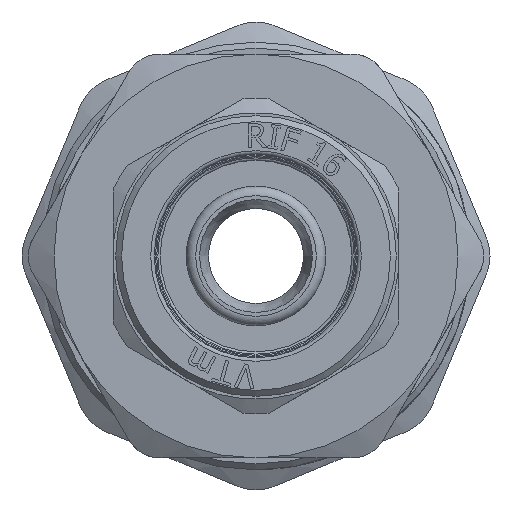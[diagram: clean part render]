
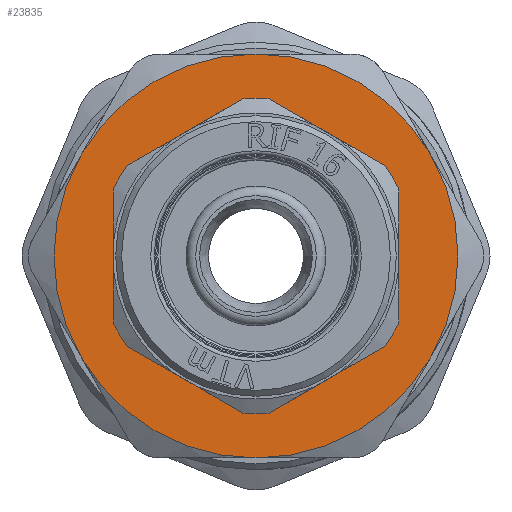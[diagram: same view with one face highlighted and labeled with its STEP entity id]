
A CAD part, left-side view. The second image highlights one B-rep face of the part: STEP entity #23835.
In plain terms, the highlighted planar face has unit normal (-1, 0, 0).
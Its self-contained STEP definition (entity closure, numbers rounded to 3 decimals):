
#288=FACE_BOUND('',#4022,.T.);
#628=PLANE('',#25018);
#2617=FACE_OUTER_BOUND('',#4021,.T.);
#4021=EDGE_LOOP('',(#22270,#22271,#22272,#22273,#22274,#22275));
#4022=EDGE_LOOP('',(#22276,#22277));
#4260=CIRCLE('',#24520,17.);
#4261=CIRCLE('',#24522,17.);
#4262=CIRCLE('',#24524,17.);
#4263=CIRCLE('',#24526,17.);
#4264=CIRCLE('',#24528,17.);
#4265=CIRCLE('',#24530,17.);
#4616=CIRCLE('',#25016,9.1);
#4617=CIRCLE('',#25017,9.1);
#11171=VERTEX_POINT('',#52360);
#11179=VERTEX_POINT('',#52408);
#11187=VERTEX_POINT('',#52456);
#11202=VERTEX_POINT('',#52541);
#11210=VERTEX_POINT('',#52589);
#11215=VERTEX_POINT('',#52633);
#11511=VERTEX_POINT('',#53502);
#11512=VERTEX_POINT('',#53504);
#14713=EDGE_CURVE('',#11215,#11187,#4260,.T.);
#14714=EDGE_CURVE('',#11202,#11215,#4261,.T.);
#14715=EDGE_CURVE('',#11187,#11179,#4262,.T.);
#14716=EDGE_CURVE('',#11179,#11171,#4263,.T.);
#14717=EDGE_CURVE('',#11210,#11202,#4264,.T.);
#14718=EDGE_CURVE('',#11171,#11210,#4265,.T.);
#15128=EDGE_CURVE('',#11511,#11512,#4616,.T.);
#15129=EDGE_CURVE('',#11512,#11511,#4617,.T.);
#22270=ORIENTED_EDGE('',*,*,#14715,.T.);
#22271=ORIENTED_EDGE('',*,*,#14716,.T.);
#22272=ORIENTED_EDGE('',*,*,#14718,.T.);
#22273=ORIENTED_EDGE('',*,*,#14717,.T.);
#22274=ORIENTED_EDGE('',*,*,#14714,.T.);
#22275=ORIENTED_EDGE('',*,*,#14713,.T.);
#22276=ORIENTED_EDGE('',*,*,#15129,.F.);
#22277=ORIENTED_EDGE('',*,*,#15128,.F.);
#23835=ADVANCED_FACE('',(#2617,#288),#628,.T.);
#24520=AXIS2_PLACEMENT_3D('',#52653,#27761,#27762);
#24522=AXIS2_PLACEMENT_3D('',#52655,#27765,#27766);
#24524=AXIS2_PLACEMENT_3D('',#52657,#27769,#27770);
#24526=AXIS2_PLACEMENT_3D('',#52659,#27773,#27774);
#24528=AXIS2_PLACEMENT_3D('',#52661,#27777,#27778);
#24530=AXIS2_PLACEMENT_3D('',#52663,#27781,#27782);
#25016=AXIS2_PLACEMENT_3D('',#53505,#28812,#28813);
#25017=AXIS2_PLACEMENT_3D('',#53506,#28814,#28815);
#25018=AXIS2_PLACEMENT_3D('',#53507,#28816,#28817);
#27761=DIRECTION('center_axis',(-1.,0.,0.));
#27762=DIRECTION('ref_axis',(0.,0.,1.));
#27765=DIRECTION('center_axis',(-1.,0.,0.));
#27766=DIRECTION('ref_axis',(0.,0.,1.));
#27769=DIRECTION('center_axis',(-1.,0.,0.));
#27770=DIRECTION('ref_axis',(0.,0.,1.));
#27773=DIRECTION('center_axis',(-1.,0.,0.));
#27774=DIRECTION('ref_axis',(0.,0.,1.));
#27777=DIRECTION('center_axis',(-1.,0.,0.));
#27778=DIRECTION('ref_axis',(0.,0.,1.));
#27781=DIRECTION('center_axis',(-1.,0.,0.));
#27782=DIRECTION('ref_axis',(0.,0.,1.));
#28812=DIRECTION('center_axis',(-1.,0.,0.));
#28813=DIRECTION('ref_axis',(0.,0.,1.));
#28814=DIRECTION('center_axis',(-1.,0.,0.));
#28815=DIRECTION('ref_axis',(0.,0.,1.));
#28816=DIRECTION('center_axis',(-1.,0.,0.));
#28817=DIRECTION('ref_axis',(0.,0.,1.));
#52360=CARTESIAN_POINT('',(-7.5,0.,17.));
#52408=CARTESIAN_POINT('',(-7.5,-14.722,8.5));
#52456=CARTESIAN_POINT('',(-7.5,-14.722,-8.5));
#52541=CARTESIAN_POINT('',(-7.5,14.722,-8.5));
#52589=CARTESIAN_POINT('',(-7.5,14.722,8.5));
#52633=CARTESIAN_POINT('',(-7.5,0.,-17.));
#52653=CARTESIAN_POINT('Origin',(-7.5,0.,
0.));
#52655=CARTESIAN_POINT('Origin',(-7.5,0.,
0.));
#52657=CARTESIAN_POINT('Origin',(-7.5,0.,
0.));
#52659=CARTESIAN_POINT('Origin',(-7.5,0.,
0.));
#52661=CARTESIAN_POINT('Origin',(-7.5,0.,
0.));
#52663=CARTESIAN_POINT('Origin',(-7.5,0.,
0.));
#53502=CARTESIAN_POINT('',(-7.5,9.1,0.));
#53504=CARTESIAN_POINT('',(-7.5,-9.1,0.));
#53505=CARTESIAN_POINT('Origin',(-7.5,0.,
0.));
#53506=CARTESIAN_POINT('Origin',(-7.5,0.,
0.));
#53507=CARTESIAN_POINT('Origin',(-7.5,-9.1,0.));
